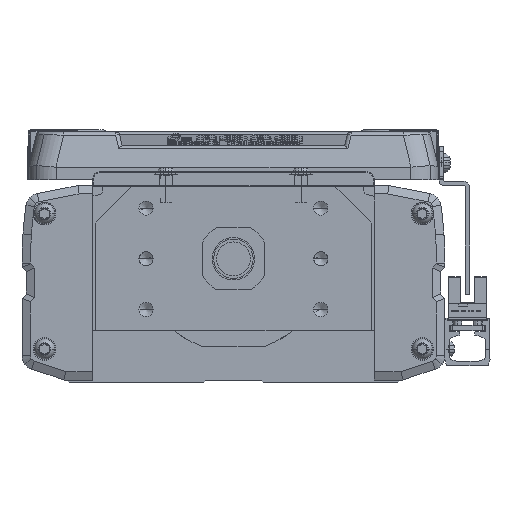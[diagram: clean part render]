
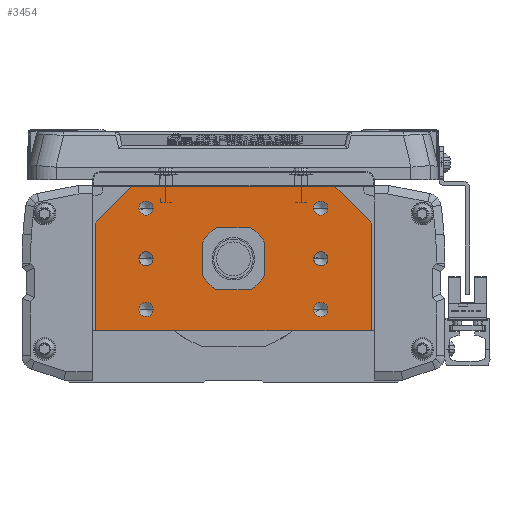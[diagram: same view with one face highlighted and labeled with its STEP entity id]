
A CAD part, left-side view. The second image highlights one B-rep face of the part: STEP entity #3454.
In plain terms, the highlighted planar face has unit normal (-1, 0, 0).
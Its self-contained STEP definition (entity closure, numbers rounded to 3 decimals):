
#3454=ADVANCED_FACE('',(#9323,#9324,#9325,#9326,#9327,#9328,#9329,#9330),#9331,.F.);
#9323=FACE_OUTER_BOUND('',#18519,.T.);
#9324=FACE_BOUND('',#18520,.T.);
#9325=FACE_BOUND('',#18521,.T.);
#9326=FACE_BOUND('',#18522,.T.);
#9327=FACE_BOUND('',#18523,.T.);
#9328=FACE_BOUND('',#18524,.T.);
#9329=FACE_BOUND('',#18525,.T.);
#9330=FACE_BOUND('',#18526,.T.);
#9331=PLANE('',#18527);
#18519=EDGE_LOOP('',(#28840,#28841,#28842,#28843,#28844,#28845,#28846,#28847));
#18520=EDGE_LOOP('',(#28848,#28849));
#18521=EDGE_LOOP('',(#28850,#28851));
#18522=EDGE_LOOP('',(#28852,#28853));
#18523=EDGE_LOOP('',(#28854,#28855));
#18524=EDGE_LOOP('',(#28856,#28857));
#18525=EDGE_LOOP('',(#28858,#28859));
#18526=EDGE_LOOP('',(#28860,#28861));
#18527=AXIS2_PLACEMENT_3D('',#28862,#28863,#28864);
#28840=ORIENTED_EDGE('',*,*,#53677,.F.);
#28841=ORIENTED_EDGE('',*,*,#53678,.F.);
#28842=ORIENTED_EDGE('',*,*,#53679,.F.);
#28843=ORIENTED_EDGE('',*,*,#53680,.F.);
#28844=ORIENTED_EDGE('',*,*,#53681,.F.);
#28845=ORIENTED_EDGE('',*,*,#53682,.F.);
#28846=ORIENTED_EDGE('',*,*,#53683,.F.);
#28847=ORIENTED_EDGE('',*,*,#53684,.F.);
#28848=ORIENTED_EDGE('',*,*,#53685,.T.);
#28849=ORIENTED_EDGE('',*,*,#53686,.T.);
#28850=ORIENTED_EDGE('',*,*,#53687,.T.);
#28851=ORIENTED_EDGE('',*,*,#53688,.T.);
#28852=ORIENTED_EDGE('',*,*,#53689,.T.);
#28853=ORIENTED_EDGE('',*,*,#53690,.T.);
#28854=ORIENTED_EDGE('',*,*,#53691,.T.);
#28855=ORIENTED_EDGE('',*,*,#53692,.T.);
#28856=ORIENTED_EDGE('',*,*,#53693,.T.);
#28857=ORIENTED_EDGE('',*,*,#53694,.T.);
#28858=ORIENTED_EDGE('',*,*,#53695,.T.);
#28859=ORIENTED_EDGE('',*,*,#53696,.T.);
#28860=ORIENTED_EDGE('',*,*,#53697,.F.);
#28861=ORIENTED_EDGE('',*,*,#53698,.F.);
#28862=CARTESIAN_POINT('',(0.,0.275,-2.548));
#28863=DIRECTION('',(1.0,0.,0.));
#28864=DIRECTION('',(0.,1.0,0.));
#53677=EDGE_CURVE('',#63817,#63818,#63819,.T.);
#53678=EDGE_CURVE('',#63820,#63817,#63821,.T.);
#53679=EDGE_CURVE('',#63822,#63820,#63823,.T.);
#53680=EDGE_CURVE('',#63824,#63822,#63825,.T.);
#53681=EDGE_CURVE('',#63826,#63824,#63827,.T.);
#53682=EDGE_CURVE('',#63828,#63826,#63829,.T.);
#53683=EDGE_CURVE('',#63830,#63828,#63831,.T.);
#53684=EDGE_CURVE('',#63818,#63830,#63832,.T.);
#53685=EDGE_CURVE('',#63833,#63834,#63835,.T.);
#53686=EDGE_CURVE('',#63834,#63833,#63836,.T.);
#53687=EDGE_CURVE('',#63837,#63838,#63839,.T.);
#53688=EDGE_CURVE('',#63838,#63837,#63840,.T.);
#53689=EDGE_CURVE('',#63841,#63842,#63843,.T.);
#53690=EDGE_CURVE('',#63842,#63841,#63844,.T.);
#53691=EDGE_CURVE('',#63845,#63846,#63847,.T.);
#53692=EDGE_CURVE('',#63846,#63845,#63848,.T.);
#53693=EDGE_CURVE('',#63849,#63850,#63851,.T.);
#53694=EDGE_CURVE('',#63850,#63849,#63852,.T.);
#53695=EDGE_CURVE('',#63853,#63854,#63855,.T.);
#53696=EDGE_CURVE('',#63854,#63853,#63856,.T.);
#53697=EDGE_CURVE('',#63857,#63858,#63859,.F.);
#53698=EDGE_CURVE('',#63858,#63857,#63860,.F.);
#63817=VERTEX_POINT('',#78417);
#63818=VERTEX_POINT('',#78418);
#63819=LINE('',#78419,#78420);
#63820=VERTEX_POINT('',#78421);
#63821=LINE('',#78422,#78423);
#63822=VERTEX_POINT('',#78424);
#63823=LINE('',#78425,#78426);
#63824=VERTEX_POINT('',#78427);
#63825=LINE('',#78428,#78429);
#63826=VERTEX_POINT('',#78430);
#63827=LINE('',#78431,#78432);
#63828=VERTEX_POINT('',#78433);
#63829=LINE('',#78434,#78435);
#63830=VERTEX_POINT('',#78436);
#63831=LINE('',#78437,#78438);
#63832=LINE('',#78439,#78440);
#63833=VERTEX_POINT('',#78441);
#63834=VERTEX_POINT('',#78442);
#63835=CIRCLE('',#78443,2.5);
#63836=CIRCLE('',#78444,2.5);
#63837=VERTEX_POINT('',#78445);
#63838=VERTEX_POINT('',#78446);
#63839=CIRCLE('',#78447,2.5);
#63840=CIRCLE('',#78448,2.5);
#63841=VERTEX_POINT('',#78449);
#63842=VERTEX_POINT('',#78450);
#63843=CIRCLE('',#78451,2.5);
#63844=CIRCLE('',#78452,2.5);
#63845=VERTEX_POINT('',#78453);
#63846=VERTEX_POINT('',#78454);
#63847=CIRCLE('',#78455,2.5);
#63848=CIRCLE('',#78456,2.5);
#63849=VERTEX_POINT('',#78457);
#63850=VERTEX_POINT('',#78458);
#63851=CIRCLE('',#78459,2.5);
#63852=CIRCLE('',#78460,2.5);
#63853=VERTEX_POINT('',#78461);
#63854=VERTEX_POINT('',#78462);
#63855=CIRCLE('',#78463,2.5);
#63856=CIRCLE('',#78464,2.5);
#63857=VERTEX_POINT('',#78465);
#63858=VERTEX_POINT('',#78466);
#63859=CIRCLE('',#78467,7.5);
#63860=CIRCLE('',#78468,7.5);
#78417=CARTESIAN_POINT('',(0.,49.,12.7));
#78418=CARTESIAN_POINT('',(0.,36.,25.7));
#78419=CARTESIAN_POINT('',(0.,37.381,24.319));
#78420=VECTOR('',#99140,10.);
#78421=CARTESIAN_POINT('',(0.,49.,-25.));
#78422=CARTESIAN_POINT('',(0.,49.,-25.));
#78423=VECTOR('',#99141,10.0);
#78424=CARTESIAN_POINT('',(0.,48.5,-25.5));
#78425=CARTESIAN_POINT('',(0.,48.5,-25.5));
#78426=VECTOR('',#99142,10.0);
#78427=CARTESIAN_POINT('',(0.,-48.5,-25.5));
#78428=CARTESIAN_POINT('',(0.,0.,-25.5));
#78429=VECTOR('',#99143,10.0);
#78430=CARTESIAN_POINT('',(0.,-49.,-25.));
#78431=CARTESIAN_POINT('',(0.,-49.,-25.));
#78432=VECTOR('',#99144,10.0);
#78433=CARTESIAN_POINT('',(0.,-49.,12.7));
#78434=CARTESIAN_POINT('',(0.,-49.,-14.));
#78435=VECTOR('',#99145,10.0);
#78436=CARTESIAN_POINT('',(0.,-36.,25.7));
#78437=CARTESIAN_POINT('',(0.,-37.243,24.457));
#78438=VECTOR('',#99146,10.0);
#78439=CARTESIAN_POINT('',(0.,34.5,25.7));
#78440=VECTOR('',#99147,10.0);
#78441=CARTESIAN_POINT('',(0.,33.5,-18.));
#78442=CARTESIAN_POINT('',(0.,28.5,-18.));
#78443=AXIS2_PLACEMENT_3D('',#99148,#99149,#99150);
#78444=AXIS2_PLACEMENT_3D('',#99151,#99152,#99153);
#78445=CARTESIAN_POINT('',(0.,-33.5,-18.));
#78446=CARTESIAN_POINT('',(0.,-28.5,-18.));
#78447=AXIS2_PLACEMENT_3D('',#99154,#99155,#99156);
#78448=AXIS2_PLACEMENT_3D('',#99157,#99158,#99159);
#78449=CARTESIAN_POINT('',(0.,33.5,18.));
#78450=CARTESIAN_POINT('',(0.,28.5,18.));
#78451=AXIS2_PLACEMENT_3D('',#99160,#99161,#99162);
#78452=AXIS2_PLACEMENT_3D('',#99163,#99164,#99165);
#78453=CARTESIAN_POINT('',(0.,-33.5,18.));
#78454=CARTESIAN_POINT('',(0.,-28.5,18.));
#78455=AXIS2_PLACEMENT_3D('',#99166,#99167,#99168);
#78456=AXIS2_PLACEMENT_3D('',#99169,#99170,#99171);
#78457=CARTESIAN_POINT('',(0.,33.5,0.));
#78458=CARTESIAN_POINT('',(0.,28.5,0.));
#78459=AXIS2_PLACEMENT_3D('',#99172,#99173,#99174);
#78460=AXIS2_PLACEMENT_3D('',#99175,#99176,#99177);
#78461=CARTESIAN_POINT('',(0.,-33.5,0.));
#78462=CARTESIAN_POINT('',(0.,-28.5,0.));
#78463=AXIS2_PLACEMENT_3D('',#99178,#99179,#99180);
#78464=AXIS2_PLACEMENT_3D('',#99181,#99182,#99183);
#78465=CARTESIAN_POINT('',(0.,7.5,0.));
#78466=CARTESIAN_POINT('',(0.,-7.5,0.));
#78467=AXIS2_PLACEMENT_3D('',#99184,#99185,#99186);
#78468=AXIS2_PLACEMENT_3D('',#99187,#99188,#99189);
#99140=DIRECTION('',(0.,-0.707,0.707));
#99141=DIRECTION('',(0.,0.,1.0));
#99142=DIRECTION('',(0.,0.707,0.707));
#99143=DIRECTION('',(0.,1.0,0.));
#99144=DIRECTION('',(0.,0.707,-0.707));
#99145=DIRECTION('',(0.,0.,-1.0));
#99146=DIRECTION('',(0.,-0.707,-0.707));
#99147=DIRECTION('',(0.,-1.0,0.));
#99148=CARTESIAN_POINT('',(0.,31.,-18.));
#99149=DIRECTION('',(1.0,0.,0.));
#99150=DIRECTION('',(0.,1.0,0.));
#99151=CARTESIAN_POINT('',(0.,31.,-18.));
#99152=DIRECTION('',(1.0,0.,0.));
#99153=DIRECTION('',(0.,1.0,0.));
#99154=CARTESIAN_POINT('',(0.,-31.,-18.));
#99155=DIRECTION('',(1.0,0.,0.));
#99156=DIRECTION('',(0.,-1.0,0.));
#99157=CARTESIAN_POINT('',(0.,-31.,-18.));
#99158=DIRECTION('',(1.0,0.,0.));
#99159=DIRECTION('',(0.,-1.0,0.));
#99160=CARTESIAN_POINT('',(0.,31.,18.));
#99161=DIRECTION('',(1.0,0.,0.));
#99162=DIRECTION('',(0.,1.0,0.));
#99163=CARTESIAN_POINT('',(0.,31.,18.));
#99164=DIRECTION('',(1.0,0.,0.));
#99165=DIRECTION('',(0.,1.0,0.));
#99166=CARTESIAN_POINT('',(0.,-31.,18.));
#99167=DIRECTION('',(1.0,0.,0.));
#99168=DIRECTION('',(0.,-1.0,0.));
#99169=CARTESIAN_POINT('',(0.,-31.,18.));
#99170=DIRECTION('',(1.0,0.,0.));
#99171=DIRECTION('',(0.,-1.0,0.));
#99172=CARTESIAN_POINT('',(0.,31.,0.));
#99173=DIRECTION('',(1.0,0.,0.));
#99174=DIRECTION('',(0.,1.0,0.));
#99175=CARTESIAN_POINT('',(0.,31.,0.));
#99176=DIRECTION('',(1.0,0.,0.));
#99177=DIRECTION('',(0.,1.0,0.));
#99178=CARTESIAN_POINT('',(0.,-31.,0.));
#99179=DIRECTION('',(1.0,0.,0.));
#99180=DIRECTION('',(0.,-1.0,0.));
#99181=CARTESIAN_POINT('',(0.,-31.,0.));
#99182=DIRECTION('',(1.0,0.,0.));
#99183=DIRECTION('',(0.,-1.0,0.));
#99184=CARTESIAN_POINT('',(0.,0.,0.));
#99185=DIRECTION('',(1.0,0.,0.));
#99186=DIRECTION('',(0.,-1.0,0.));
#99187=CARTESIAN_POINT('',(0.,0.,0.));
#99188=DIRECTION('',(1.0,0.,0.));
#99189=DIRECTION('',(0.,-1.0,0.));
